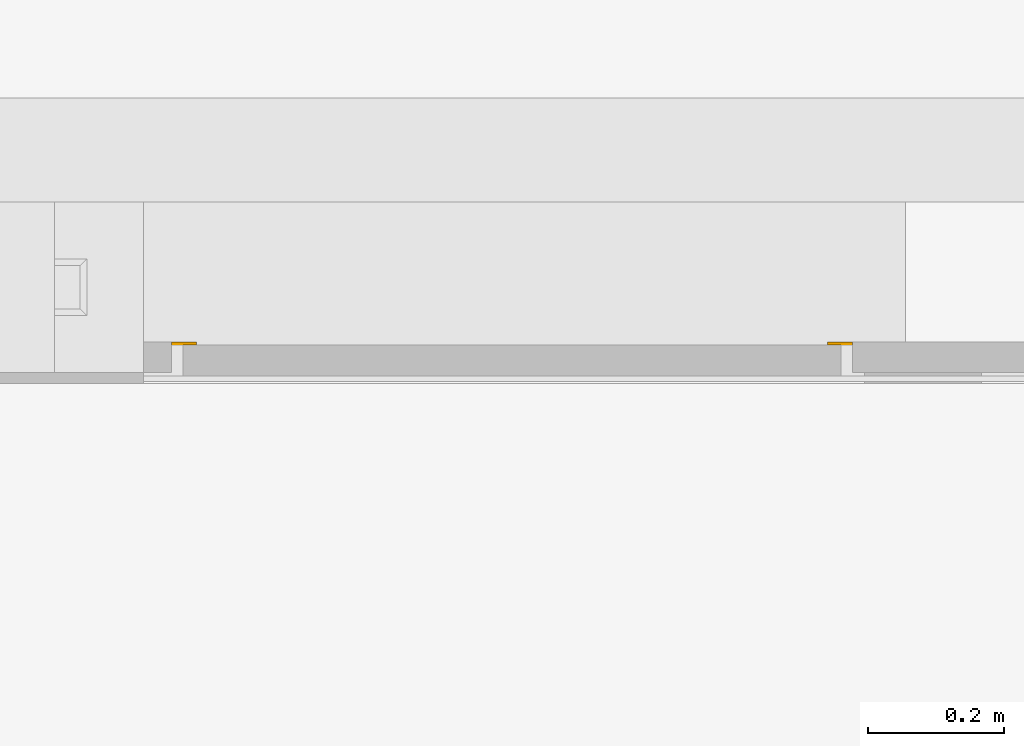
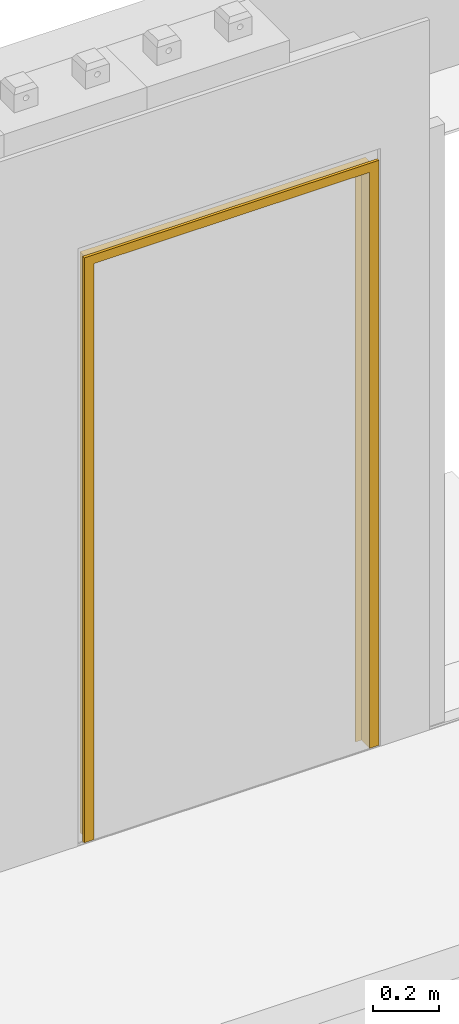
# One storey, part 3 of 3: 1 door.
"""IFC4 building model written with IfcOpenShell, lengths in centimetres."""

from ifc_helpers import new_model, entity, si_unit, converted_unit, direction, frame, origin, place, context, subcontext, project, spatial, polygons, source, transform, mapped, material, constituent, constituent_set, type_object, type_shapes, element, save


model = new_model("IFC4")

# Units and contexts
model_context = context("Model", 3, precision=0.001, world=origin(), true_north=direction((0.0, 1.0)))
body_context = subcontext(model_context, "Body", "Model", "MODEL_VIEW")
ifc_project = project(units=[si_unit("LENGTHUNIT", "METRE", prefix="CENTI"), si_unit("AREAUNIT", "SQUARE_METRE"), si_unit("VOLUMEUNIT", "CUBIC_METRE"), converted_unit("PLANEANGLEUNIT", "DEGREE", entity("IfcPlaneAngleMeasure", 0.017453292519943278), si_unit("PLANEANGLEUNIT", "RADIAN"), dimensions=[0, 0, 0, 0, 0, 0, 0])], contexts=[model_context])

# Site, building, storey
site_placement = place(None, origin())
site = spatial("IfcSite", under=ifc_project, at=site_placement, Name="Default", CompositionType="ELEMENT")
building_placement = place(site_placement, origin())
building = spatial("IfcBuilding", under=site, at=building_placement, CompositionType="ELEMENT")
storey_placement = place(building_placement, frame((0.0, 0.0, -12.0)))
storey = spatial("IfcBuildingStorey", under=building, at=storey_placement, Name="L00__ABOVE Slab", CompositionType="ELEMENT", Elevation=-12.000000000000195)

# Door
ifc_material_1 = material(Name="<Unnamed>")
ifc_constituent_1 = constituent(ifc_material_1, Name="<Unnamed>", fraction=0.0)
ifc_material_2 = material(Name="Mounting Joint", Category="Miscellaneous")
ifc_constituent_2 = constituent(ifc_material_2, Name="Mounting Joint", Category="Miscellaneous", fraction=1.0)
ifc_constituent_set_1 = constituent_set(constituents=[ifc_constituent_1, ifc_constituent_2])
ifc_constituent_3 = constituent(ifc_material_1, Name="_FRAME", fraction=0.0)
ifc_constituent_4 = constituent(ifc_material_2, Name="_MOUNTING JOINTS", Category="Miscellaneous", fraction=1.0)
ifc_constituent_set_2 = constituent_set(constituents=[ifc_constituent_3, ifc_constituent_4])
door_type = type_object("IfcDoorType", Name="Doors : dor_s__FRAME SWING__Metal, Corner Mounting__wp : dor_s__FRAME SWING__Metal, Corner Mounting__wp", OperationType="NOTDEFINED", PredefinedType="DOOR", material=ifc_constituent_set_2)
shared_shape = source(origin(), body_context, "Body", "Tessellation", [
    polygons([(2.5000000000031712, -4.500000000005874, -2.5172772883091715e-13), (-0.6999999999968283, -4.500000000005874, -2.5172772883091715e-13), (-0.6999999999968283, -4.0000000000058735, -2.4481373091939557e-13), (1.3000000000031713, -4.0000000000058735, -2.4481373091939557e-13), (1.3000000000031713, 0.9999999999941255, -1.7567375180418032e-13), (4.600000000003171, 0.9999999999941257, -1.756737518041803e-13), (4.600000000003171, -5.874272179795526e-12, -1.8950174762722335e-13), (2.5000000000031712, -5.87455417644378e-12, -1.8950174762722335e-13), (2.5000000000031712, -4.50000000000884, 214.49999999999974), (-96.49999999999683, -4.50000000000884, 214.49999999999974), (-96.49999999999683, -4.500000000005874, -2.517277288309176e-13), (-93.29999999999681, -4.500000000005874, -2.517277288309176e-13), (-93.29999999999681, -4.500000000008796, 211.30000000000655), (-0.6999999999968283, -4.500000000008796, 211.30000000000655), (-0.6999999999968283, -4.000000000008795, 211.30000000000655), (-93.29999999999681, -4.000000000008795, 211.30000000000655), (-93.29999999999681, -4.0000000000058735, -2.44813730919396e-13), (-95.29999999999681, -4.0000000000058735, -2.44813730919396e-13), (-95.29999999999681, -4.000000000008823, 213.30000000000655), (1.3000000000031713, -4.000000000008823, 213.30000000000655), (1.3000000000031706, 0.9999999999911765, 213.30000000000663), (-95.29999999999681, 0.9999999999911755, 213.30000000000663), (-95.29999999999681, 0.999999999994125, -1.7567375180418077e-13), (-98.5999999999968, 0.9999999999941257, -1.7567375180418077e-13), (-98.5999999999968, 0.9999999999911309, 216.60000000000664), (4.600000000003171, 0.9999999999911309, 216.60000000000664), (4.600000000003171, -8.869358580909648e-12, 216.60000000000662), (-98.59999999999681, -8.869358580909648e-12, 216.60000000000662), (-98.59999999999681, -5.8739901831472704e-12, -1.8950174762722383e-13), (-96.49999999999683, -5.87455417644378e-12, -1.8950174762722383e-13), (-96.49999999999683, -8.840504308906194e-12, 214.49999999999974), (2.50000000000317, -8.840413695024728e-12, 214.49999999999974)], [[[1, 2, 3, 4, 5, 6, 7, 8]], [[2, 1, 9, 10, 11, 12, 13, 14]], [[3, 2, 14, 15]], [[4, 3, 15, 16, 17, 18, 19, 20]], [[5, 4, 20, 21]], [[6, 5, 21, 22, 23, 24, 25, 26]], [[7, 6, 26, 27]], [[8, 7, 27, 28, 29, 30, 31, 32]], [[1, 8, 32, 9]], [[24, 29, 28, 25]], [[11, 30, 29, 24, 23, 18, 17, 12]], [[30, 11, 10, 31]], [[19, 18, 23, 22]], [[12, 17, 16, 13]], [[27, 26, 25, 28]], [[32, 31, 10, 9]], [[16, 15, 14, 13]], [[22, 21, 20, 19]]], closed=True),
    polygons([(3.0000000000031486, -4.500000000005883, -1.876887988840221e-13), (2.500000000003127, -4.500000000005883, -1.876887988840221e-13), (2.500000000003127, -7.5242345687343e-12, -1.876887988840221e-13), (3.0000000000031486, -7.5242345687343e-12, -1.876887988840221e-13), (3.0000000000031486, -4.500000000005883, 214.99999999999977), (2.500000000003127, -4.500000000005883, 214.99999999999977), (2.500000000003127, -7.5242345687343e-12, 214.99999999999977), (3.0000000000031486, -7.5242345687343e-12, 214.99999999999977)], [[[1, 2, 3, 4]], [[5, 6, 2, 1]], [[6, 7, 3, 2]], [[7, 8, 4, 3]], [[8, 5, 1, 4]], [[5, 8, 7, 6]]], closed=True),
    polygons([(-96.99999999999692, -4.500000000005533, 214.99999999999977), (-96.99999999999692, -7.520850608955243e-12, 214.99999999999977), (-96.99999999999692, -7.520850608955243e-12, -1.876887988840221e-13), (-96.99999999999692, -4.500000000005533, -1.876887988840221e-13), (-96.49999999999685, -7.520850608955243e-12, 214.99999999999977), (-96.49999999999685, -7.520850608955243e-12, -1.876887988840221e-13), (-96.49999999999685, -4.500000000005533, 214.99999999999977), (-96.49999999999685, -4.500000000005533, -1.876887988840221e-13)], [[[1, 2, 3, 4]], [[2, 5, 6, 3]], [[5, 7, 8, 6]], [[7, 1, 4, 8]], [[1, 7, 5, 2]], [[4, 3, 6, 8]]], closed=True),
    polygons([(2.500000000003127, -4.5000000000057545, 214.99999999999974), (2.500000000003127, -4.5000000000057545, 214.50000000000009), (2.500000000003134, -2.2842574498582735e-11, 214.50000000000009), (2.500000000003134, -2.2842574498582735e-11, 214.99999999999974), (-96.49999999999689, -4.500000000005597, 214.99999999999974), (-96.49999999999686, -2.2686066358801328e-11, 214.99999999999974), (-96.49999999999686, -2.2686066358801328e-11, 214.50000000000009), (-96.49999999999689, -4.500000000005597, 214.50000000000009)], [[[1, 2, 3, 4]], [[5, 6, 7, 8]], [[2, 1, 5, 8]], [[3, 2, 8, 7]], [[4, 3, 7, 6]], [[1, 4, 6, 5]]], closed=True),
])
type_shapes(door_type, [shared_shape])
door_placement = place(storey_placement, frame((2870.8494566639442, 1192.871873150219, 16.500000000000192), z_axis=(0.0, 0.0, 1.0), x_axis=(-1.0, 0.0, 0.0)))
element("IfcDoor", 1, at=door_placement, inside=storey, type_object=door_type, material=ifc_constituent_set_1, Name="Doors : dor_s__FRAME SWING__Metal, Corner Mounting__wp : dor_s__FRAME SWING__Metal, Corner Mounting__wp", OverallHeight=5.5000000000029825, OverallWidth=103.19999999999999, PredefinedType="DOOR", context=body_context, shape_type="MappedRepresentation", body=[
    mapped(shared_shape, transform((0.0, 0.0, 0.0), scale=1.0)),
])

save(model, "model.ifc")
